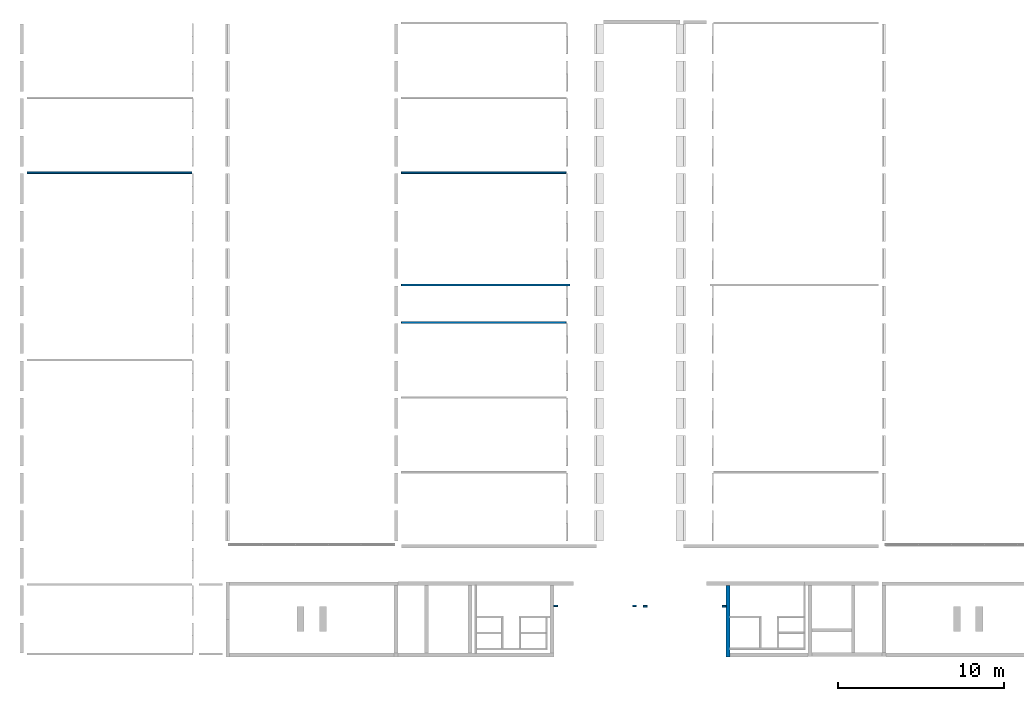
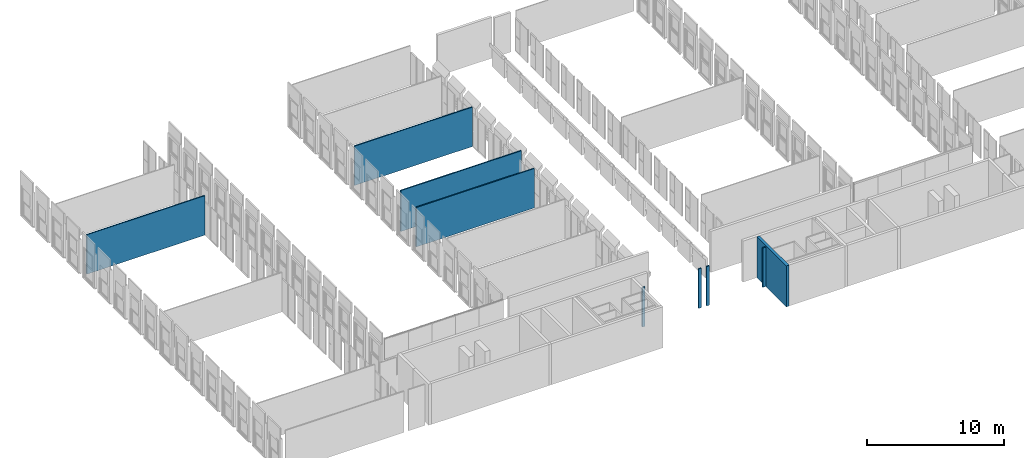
# One storey, part 4 of 13: 9 walls.
"""IFC2X3 building model written with IfcOpenShell, lengths in millimetres."""

import ifcopenshell
import ifcopenshell.guid

model = None  # the IFC model being written
_history = None  # IfcOwnerHistory: only IFC2X3 demands one
_inside = {}  # id of a spatial element -> (the spatial element, [elements in it])
_under = {}  # id of a project, library or spatial element -> (it, [spatial elements below it])
_declared = {}  # id of a project -> (the project, [libraries it declares])
_typed = {}  # id of a type object -> (the type object, [elements of that type])
_made_of = {}  # id of a material, layer set ... -> (it, [elements and type objects made of it])


def new_model(schema):
    """Start an empty IFC model of exactly this schema.

    Asked for "IFC4X3", IfcOpenShell would pick the latest addendum, in which some entities
    have other attributes; the version numbers below select the first issue.
    IFC2X3 requires an IfcOwnerHistory on every rooted entity: one is made here for all.
    """
    global model, _history
    if schema == "IFC4X3":
        model = ifcopenshell.file(schema_version=(4, 3, 0, 0))
    else:
        model = ifcopenshell.file(schema=schema)
    _inside.clear()
    _under.clear()
    _declared.clear()
    _typed.clear()
    _made_of.clear()
    _history = None
    if model.schema == "IFC2X3":
        org = make("IfcOrganization", Name="unknown")
        user = make(
            "IfcPersonAndOrganization",
            ThePerson=make("IfcPerson", FamilyName="unknown"),
            TheOrganization=org,
        )
        app = make(
            "IfcApplication",
            ApplicationDeveloper=org,
            Version="unknown",
            ApplicationFullName="unknown",
            ApplicationIdentifier="unknown",
        )
        _history = make(
            "IfcOwnerHistory",
            OwningUser=user,
            OwningApplication=app,
            ChangeAction="ADDED",
            CreationDate=0,
        )
    return model


def make(cls, **values):
    """One entity of the class cls with the attributes given. An attribute that is None is left unset."""
    return model.create_entity(
        cls, **{name: value for name, value in values.items() if value is not None}
    )


def entity(cls, *values):
    """Any entity or typed value of the class cls, its attributes in the order of the schema. None: left unset."""
    e = model.create_entity(cls)
    for i, value in enumerate(values):
        if value is not None:
            e[i] = value
    return e


def rooted(cls, **values):
    """An entity with a GlobalId (a new one), such as an element, a storey or a relation."""
    return make(cls, GlobalId=ifcopenshell.guid.new(), OwnerHistory=_history, **values)


def si_unit(unit_type, name, prefix=None):
    """IfcSIUnit, for example si_unit("LENGTHUNIT", "METRE", prefix="MILLI")."""
    return make("IfcSIUnit", UnitType=unit_type, Prefix=prefix, Name=name)


def converted_unit(unit_type, name, factor, base, dimensions=None, offset=None):
    """IfcConversionBasedUnit, such as the inch: factor (a typed value) times the base unit."""
    return make(
        "IfcConversionBasedUnit"
        if offset is None
        else "IfcConversionBasedUnitWithOffset",
        ConversionOffset=offset,
        Dimensions=None
        if dimensions is None
        else entity("IfcDimensionalExponents", *dimensions),
        UnitType=unit_type,
        Name=name,
        ConversionFactor=make(
            "IfcMeasureWithUnit", ValueComponent=factor, UnitComponent=base
        ),
    )


def derived_unit(unit_type, elements):
    """IfcDerivedUnit: a product of units, each with its exponent."""
    return make(
        "IfcDerivedUnit",
        Elements=[
            make("IfcDerivedUnitElement", Unit=unit, Exponent=power)
            for unit, power in elements
        ],
        UnitType=unit_type,
    )


def assignment(units):
    """IfcUnitAssignment: the units of a project."""
    return None if units is None else make("IfcUnitAssignment", Units=units)


def point(xyz):
    """IfcCartesianPoint."""
    return None if xyz is None else make("IfcCartesianPoint", Coordinates=xyz)


def direction(xyz):
    """IfcDirection."""
    return None if xyz is None else make("IfcDirection", DirectionRatios=xyz)


def frame(location, z_axis=None, x_axis=None):
    """IfcAxis2Placement3D, a coordinate frame: its origin and axes. An axis left out is left unset."""
    return make(
        "IfcAxis2Placement3D",
        Location=point(location),
        Axis=direction(z_axis),
        RefDirection=direction(x_axis),
    )


def frame_2d(location, x_axis=None):
    """IfcAxis2Placement2D, a coordinate frame in the plane: its origin and x axis."""
    return make(
        "IfcAxis2Placement2D", Location=point(location), RefDirection=direction(x_axis)
    )


def origin():
    """The frame at (0, 0, 0) with its axes left unset."""
    return frame((0.0, 0.0, 0.0))


def place(relative_to, where):
    """IfcLocalPlacement: puts the frame where relative to a parent placement (None: the world)."""
    return make(
        "IfcLocalPlacement", PlacementRelTo=relative_to, RelativePlacement=where
    )


def context(
    kind, dimensions, precision=None, world=None, true_north=None, identifier=None
):
    """IfcGeometricRepresentationContext, for example the 3D "Model" context."""
    return make(
        "IfcGeometricRepresentationContext",
        ContextIdentifier=identifier,
        ContextType=kind,
        CoordinateSpaceDimension=dimensions,
        Precision=precision,
        WorldCoordinateSystem=world,
        TrueNorth=true_north,
    )


def subcontext(parent, identifier, kind, view, scale=None):
    """IfcGeometricRepresentationSubContext, for example "Body" below "Model"."""
    return make(
        "IfcGeometricRepresentationSubContext",
        ContextIdentifier=identifier,
        ContextType=kind,
        ParentContext=parent,
        TargetScale=scale,
        TargetView=view,
    )


def project(units=None, contexts=None):
    """IfcProject with its units and contexts."""
    return rooted(
        "IfcProject",
        Name="project",
        RepresentationContexts=contexts,
        UnitsInContext=assignment(units),
    )


def spatial(cls, under=None, at=None, **own):
    """A site, building, storey or space (cls), placed at a placement, below another one or the project."""
    s = rooted(cls, ObjectPlacement=at, **own)
    if under is not None:
        _under.setdefault(under.id(), (under, []))[1].append(s)
    return s


def profile(cls, at=None, kind="AREA", **sizes):
    """A parametric profile (cls). Its sizes go by their IFC names, for example OverallWidth=200.0."""
    return make(cls, ProfileType=kind, Position=at, **sizes)


def rectangle(**sizes):
    """IfcRectangleProfileDef."""
    return profile("IfcRectangleProfileDef", **sizes)


def extrude(swept, where, along, depth):
    """IfcExtrudedAreaSolid: the profile swept, set in the frame where, extruded along a direction by depth."""
    return make(
        "IfcExtrudedAreaSolid",
        SweptArea=swept,
        Position=where,
        ExtrudedDirection=direction(along),
        Depth=depth,
    )


def shape(context_of_items, identifier, shape_type, items):
    """IfcShapeRepresentation: the items that make up one representation, for example the "Body"."""
    return make(
        "IfcShapeRepresentation",
        ContextOfItems=context_of_items,
        RepresentationIdentifier=identifier,
        RepresentationType=shape_type,
        Items=items,
    )


def material(Name=None, Category=None):
    """IfcMaterial."""
    return make("IfcMaterial", Name=Name, Category=Category)


def layer(
    of_material, thickness, ventilated=None, Name=None, Category=None, Priority=None
):
    """IfcMaterialLayer: one layer of a wall or slab, of a material (None: an air gap)."""
    return make(
        "IfcMaterialLayer",
        Material=of_material,
        LayerThickness=thickness,
        IsVentilated=ventilated,
        Name=Name,
        Category=Category,
        Priority=Priority,
    )


def layer_set(layers, Name=None):
    """IfcMaterialLayerSet."""
    return make("IfcMaterialLayerSet", MaterialLayers=layers, LayerSetName=Name)


def layer_usage(for_layer_set, set_direction, sense, offset, extent=None):
    """IfcMaterialLayerSetUsage: how a layer set lies in its element."""
    return make(
        "IfcMaterialLayerSetUsage",
        ForLayerSet=for_layer_set,
        LayerSetDirection=set_direction,
        DirectionSense=sense,
        OffsetFromReferenceLine=offset,
        ReferenceExtent=extent,
    )


def made_of(thing, what):
    """Note that an element or type object is made of a material, layer set ...; save() writes the relation."""
    if what is not None:
        _made_of.setdefault(what.id(), (what, []))[1].append(thing)
    return thing


def type_object(cls, material=None, **own):
    """A type object (cls), such as IfcWallType, which elements share."""
    return made_of(rooted(cls, **own), material)


def element(
    cls,
    number,
    at=None,
    inside=None,
    cuts=None,
    type_object=None,
    material=None,
    context=None,
    identifier="Body",
    shape_type=None,
    held_by="IfcProductDefinitionShape",
    body=None,
    shapes=None,
    **own,
):
    """One element of the class cls, such as IfcWall. Its Tag is "e" and its number.

    at: its placement. inside: the storey or other place that contains it. cuts: it is an
    opening in that element (IfcRelVoidsElement). A single representation is given by context,
    identifier, shape_type and body (its items); several are given by shapes. held_by: the class
    of the entity that holds the representations. save() writes the other relations.
    """
    e = rooted(cls, Tag="e%d" % number, ObjectPlacement=at, **own)
    if body is not None:
        shapes = [shape(context, identifier, shape_type, body)]
    if shapes is not None:
        e.Representation = make(held_by, Representations=shapes)
    if inside is not None:
        _inside.setdefault(inside.id(), (inside, []))[1].append(e)
    if cuts is not None:
        rooted(
            "IfcRelVoidsElement", RelatingBuildingElement=cuts, RelatedOpeningElement=e
        )
    if type_object is not None:
        _typed.setdefault(type_object.id(), (type_object, []))[1].append(e)
    return made_of(e, material)


def aggregate(whole, parts):
    """IfcRelAggregates: a whole, such as a stair, and the parts it consists of."""
    return rooted("IfcRelAggregates", RelatingObject=whole, RelatedObjects=parts)


def save(model, path):
    """Write the relations noted so far, then the file.

    IfcRelAggregates (storeys below a building ...), IfcRelContainedInSpatialStructure (elements
    in a storey), IfcRelDefinesByType, IfcRelAssociatesMaterial and IfcRelDeclares: one each for
    every whole, place, type object, material and project.
    """
    for whole, parts in _under.values():
        aggregate(whole, parts)
    for where, things in _inside.values():
        rooted(
            "IfcRelContainedInSpatialStructure",
            RelatedElements=things,
            RelatingStructure=where,
        )
    for kind, things in _typed.values():
        rooted("IfcRelDefinesByType", RelatedObjects=things, RelatingType=kind)
    for what, things in _made_of.values():
        rooted("IfcRelAssociatesMaterial", RelatedObjects=things, RelatingMaterial=what)
    for by, libraries in _declared.values():
        rooted("IfcRelDeclares", RelatingContext=by, RelatedDefinitions=libraries)
    model.write(path)


model = new_model("IFC2X3")

# Units and contexts
model_context = context("Model", 3, precision=0.01, world=origin(), true_north=direction((6.12303176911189e-17, 1.0)))
body_context = subcontext(model_context, "Body", "Model", "MODEL_VIEW")
ifc_project = project(units=[si_unit("LENGTHUNIT", "METRE", prefix="MILLI"), si_unit("AREAUNIT", "SQUARE_METRE"), si_unit("VOLUMEUNIT", "CUBIC_METRE"), converted_unit("PLANEANGLEUNIT", "DEGREE", entity("IfcRatioMeasure", 0.0174532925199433), si_unit("PLANEANGLEUNIT", "RADIAN"), dimensions=[0, 0, 0, 0, 0, 0, 0]), si_unit("MASSUNIT", "GRAM", prefix="KILO"), derived_unit("MASSDENSITYUNIT", [(si_unit("MASSUNIT", "GRAM", prefix="KILO"), 1), (si_unit("LENGTHUNIT", "METRE"), -3)]), derived_unit("MOMENTOFINERTIAUNIT", [(si_unit("LENGTHUNIT", "METRE"), 4)]), si_unit("TIMEUNIT", "SECOND"), si_unit("FREQUENCYUNIT", "HERTZ"), si_unit("THERMODYNAMICTEMPERATUREUNIT", "DEGREE_CELSIUS"), derived_unit("THERMALTRANSMITTANCEUNIT", [(si_unit("MASSUNIT", "GRAM", prefix="KILO"), 1), (si_unit("THERMODYNAMICTEMPERATUREUNIT", "KELVIN"), -1), (si_unit("TIMEUNIT", "SECOND"), -3)]), derived_unit("VOLUMETRICFLOWRATEUNIT", [(si_unit("LENGTHUNIT", "METRE"), 3), (si_unit("TIMEUNIT", "SECOND"), -1)]), si_unit("ELECTRICCURRENTUNIT", "AMPERE"), si_unit("ELECTRICVOLTAGEUNIT", "VOLT"), si_unit("POWERUNIT", "WATT"), si_unit("FORCEUNIT", "NEWTON", prefix="KILO"), si_unit("ILLUMINANCEUNIT", "LUX"), si_unit("LUMINOUSFLUXUNIT", "LUMEN"), si_unit("LUMINOUSINTENSITYUNIT", "CANDELA"), derived_unit("USERDEFINED", [(si_unit("MASSUNIT", "GRAM", prefix="KILO"), -1), (si_unit("LENGTHUNIT", "METRE"), -2), (si_unit("TIMEUNIT", "SECOND"), 3), (si_unit("LUMINOUSFLUXUNIT", "LUMEN"), 1)]), derived_unit("LINEARVELOCITYUNIT", [(si_unit("LENGTHUNIT", "METRE"), 1), (si_unit("TIMEUNIT", "SECOND"), -1)]), si_unit("PRESSUREUNIT", "PASCAL"), derived_unit("USERDEFINED", [(si_unit("LENGTHUNIT", "METRE"), -2), (si_unit("MASSUNIT", "GRAM", prefix="KILO"), 1), (si_unit("TIMEUNIT", "SECOND"), -2)]), derived_unit("LINEARFORCEUNIT", [(si_unit("MASSUNIT", "GRAM", prefix="KILO"), 1), (si_unit("LENGTHUNIT", "METRE"), 1), (si_unit("TIMEUNIT", "SECOND"), -2), (si_unit("LENGTHUNIT", "METRE"), -1)]), derived_unit("PLANARFORCEUNIT", [(si_unit("MASSUNIT", "GRAM", prefix="KILO"), 1), (si_unit("LENGTHUNIT", "METRE"), 1), (si_unit("TIMEUNIT", "SECOND"), -2), (si_unit("LENGTHUNIT", "METRE"), -2)])], contexts=[model_context])

# Site, building, storey
site_placement = place(None, frame((10627.5135316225, 21939.0796949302, 0.0)))
site = spatial("IfcSite", under=ifc_project, at=site_placement, Name="Default", CompositionType="ELEMENT")
building_placement = place(site_placement, origin())
building = spatial("IfcBuilding", under=site, at=building_placement, CompositionType="ELEMENT")
storey_placement = place(building_placement, frame((0.0, 0.0, 7320.0)))
storey = spatial("IfcBuildingStorey", under=building, at=storey_placement, Name="R+2", CompositionType="ELEMENT", Elevation=7320.0)

# Walls
ifc_material_1 = material(Name="Paint - White Lining")
ifc_layer_1 = layer(ifc_material_1, 3.0)
ifc_material_2 = material(Name="Concrete Masonry Units")
ifc_layer_2 = layer(ifc_material_2, 94.0)
ifc_layer_3 = layer(ifc_material_1, 3.0)
ifc_layer_set_1 = layer_set([ifc_layer_1, ifc_layer_2, ifc_layer_3], Name="Basic Wall:Wall-Int 100")
ifc_layer_usage_1 = layer_usage(ifc_layer_set_1, "AXIS2", "POSITIVE", -50.0)
wall_type_1 = type_object("IfcWallType", Name="Basic Wall:Wall-Int 100", PredefinedType="STANDARD", material=ifc_layer_set_1)
wall_1_placement = place(storey_placement, frame((12177.4864683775, 495.920305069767, 0.0)))
element("IfcWallStandardCase", 1, at=wall_1_placement, inside=storey, type_object=wall_type_1, material=ifc_layer_usage_1, Name="Basic Wall:Wall-Int 100", ObjectType="Basic Wall:Wall-Int 100", context=body_context, shape_type="SweptSolid", body=[
    extrude(rectangle(XDim=10165.0, YDim=100.0, at=frame_2d((5082.50000000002, 1.06581410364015e-14), x_axis=(-1.0, 0.0))), origin(), (0.0, 0.0, 1.0), 3660.0),
])
ifc_layer_usage_2 = layer_usage(ifc_layer_set_1, "AXIS2", "POSITIVE", -50.0)
wall_2_placement = place(storey_placement, frame((-10412.5135316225, 7275.92030506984, 0.0)))
element("IfcWallStandardCase", 2, at=wall_2_placement, inside=storey, type_object=wall_type_1, material=ifc_layer_usage_2, Name="Basic Wall:Wall-Int 100", ObjectType="Basic Wall:Wall-Int 100", context=body_context, shape_type="SweptSolid", body=[
    extrude(rectangle(XDim=9949.99999999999, YDim=99.9999999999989, at=frame_2d((4975.0, 0.0), x_axis=(-1.0, 0.0))), origin(), (0.0, 0.0, 1.0), 3520.0),
])
ifc_layer_usage_3 = layer_usage(ifc_layer_set_1, "AXIS2", "NEGATIVE", 50.0)
wall_3_placement = place(storey_placement, frame((22129.4864683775, -1764.07969493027, 0.0), z_axis=(0.0, 0.0, 1.0), x_axis=(-1.0, 0.0, 0.0)))
element("IfcWallStandardCase", 3, at=wall_3_placement, inside=storey, type_object=wall_type_1, material=ifc_layer_usage_3, Name="Basic Wall:Wall-Int 100", ObjectType="Basic Wall:Wall-Int 100", context=body_context, shape_type="SweptSolid", body=[
    extrude(rectangle(XDim=9954.0, YDim=100.0, at=frame_2d((4977.0, 0.0), x_axis=(-1.0, 0.0))), origin(), (0.0, 0.0, 1.0), 3520.0),
])
ifc_layer_usage_4 = layer_usage(ifc_layer_set_1, "AXIS2", "NEGATIVE", 50.0)
wall_4_placement = place(storey_placement, frame((22129.4864683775, 7275.92030506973, 0.0), z_axis=(0.0, 0.0, 1.0), x_axis=(-1.0, 0.0, 0.0)))
element("IfcWallStandardCase", 4, at=wall_4_placement, inside=storey, type_object=wall_type_1, material=ifc_layer_usage_4, Name="Basic Wall:Wall-Int 100", ObjectType="Basic Wall:Wall-Int 100", context=body_context, shape_type="SweptSolid", body=[
    extrude(rectangle(XDim=9953.0, YDim=99.9999999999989, at=frame_2d((4976.5, 0.0), x_axis=(-1.0, 0.0))), origin(), (0.0, 0.0, 1.0), 3520.0),
])
ifc_layer_usage_5 = layer_usage(ifc_layer_set_1, "AXIS2", "NEGATIVE", 50.0)
wall_5_placement = place(storey_placement, frame((26362.4864683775, -18870.8331484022, 0.0), z_axis=(0.0, 0.0, 1.0), x_axis=(-1.0, 0.0, 0.0)))
element("IfcWallStandardCase", 5, at=wall_5_placement, inside=storey, type_object=wall_type_1, material=ifc_layer_usage_5, Name="Basic Wall:Wall-Int 100", ObjectType="Basic Wall:Wall-Int 100", context=body_context, shape_type="SweptSolid", body=[
    extrude(rectangle(XDim=226.024865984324, YDim=99.9999999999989, at=frame_2d((113.012432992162, 0.0), x_axis=(-1.0, 0.0))), origin(), (0.0, 0.0, 1.0), 3520.0),
])
ifc_layer_usage_6 = layer_usage(ifc_layer_set_1, "AXIS2", "NEGATIVE", 50.0)
wall_6_placement = place(storey_placement, frame((21616.4616023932, -18870.8331484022, 0.0), z_axis=(0.0, 0.0, 1.0), x_axis=(-1.0, 0.0, 0.0)))
element("IfcWallStandardCase", 6, at=wall_6_placement, inside=storey, type_object=wall_type_1, material=ifc_layer_usage_6, Name="Basic Wall:Wall-Int 100", ObjectType="Basic Wall:Wall-Int 100", context=body_context, shape_type="SweptSolid", body=[
    extrude(rectangle(XDim=238.975134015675, YDim=99.9999999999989, at=frame_2d((119.487567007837, 0.0), x_axis=(-1.0, 0.0))), origin(), (0.0, 0.0, 1.0), 3520.0),
])
ifc_layer_usage_7 = layer_usage(ifc_layer_set_1, "AXIS2", "POSITIVE", -50.0)
wall_7_placement = place(storey_placement, frame((26792.4864683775, -18895.8331484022, 0.0)))
element("IfcWallStandardCase", 7, at=wall_7_placement, inside=storey, type_object=wall_type_1, material=ifc_layer_usage_7, Name="Basic Wall:Wall-Int 100", ObjectType="Basic Wall:Wall-Int 100", context=body_context, shape_type="SweptSolid", body=[
    extrude(rectangle(XDim=226.024865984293, YDim=99.9999999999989, at=frame_2d((113.012432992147, 0.0), x_axis=(-1.0, 0.0))), origin(), (0.0, 0.0, 1.0), 3520.0),
])
ifc_layer_usage_8 = layer_usage(ifc_layer_set_1, "AXIS2", "POSITIVE", -50.0)
wall_8_placement = place(storey_placement, frame((31538.5113343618, -18895.8331484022, 0.0)))
element("IfcWallStandardCase", 8, at=wall_8_placement, inside=storey, type_object=wall_type_1, material=ifc_layer_usage_8, Name="Basic Wall:Wall-Int 100", ObjectType="Basic Wall:Wall-Int 100", context=body_context, shape_type="SweptSolid", body=[
    extrude(rectangle(XDim=244.335129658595, YDim=99.9999999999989, at=frame_2d((122.167564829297, 0.0), x_axis=(-1.0, 0.0))), origin(), (0.0, 0.0, 1.0), 3520.0),
])
ifc_layer_4 = layer(ifc_material_1, 15.0)
ifc_material_3 = material(Name="Concrete - Precast Concrete - 35 MPa")
ifc_layer_5 = layer(ifc_material_3, 200.0)
ifc_layer_6 = layer(ifc_material_1, 15.0)
ifc_layer_set_2 = layer_set([ifc_layer_4, ifc_layer_5, ifc_layer_6], Name="Basic Wall:Mur200PentureBlanche 2")
ifc_layer_usage_9 = layer_usage(ifc_layer_set_2, "AXIS2", "POSITIVE", -115.0)
wall_type_2 = type_object("IfcWallType", Name="Basic Wall:Mur200PentureBlanche 2", PredefinedType="STANDARD", material=ifc_layer_set_2)
wall_9_placement = place(storey_placement, frame((31897.8464640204, -17634.0796949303, 0.0), z_axis=(0.0, 0.0, 1.0), x_axis=(0.0, -1.0, 0.0)))
element("IfcWallStandardCase", 9, at=wall_9_placement, inside=storey, type_object=wall_type_2, material=ifc_layer_usage_9, Name="Basic Wall:Mur200PentureBlanche 2", ObjectType="Basic Wall:Mur200PentureBlanche 2", context=body_context, shape_type="SweptSolid", body=[
    extrude(rectangle(XDim=4319.99999999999, YDim=230.0, at=frame_2d((2160.0, -9.9475983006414e-14), x_axis=(-1.0, 0.0))), origin(), (0.0, 0.0, 1.0), 3660.0),
])

save(model, "model.ifc")
